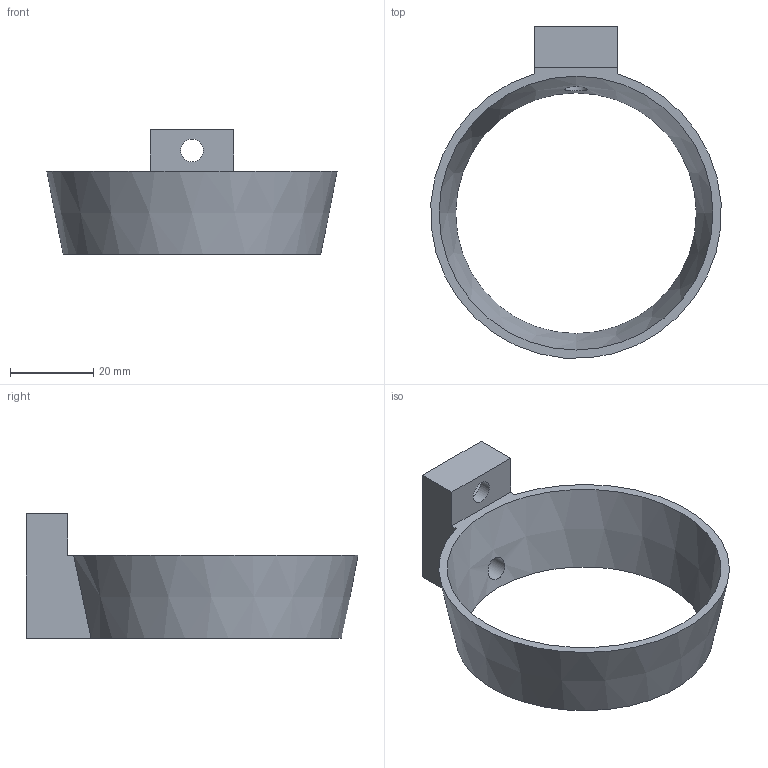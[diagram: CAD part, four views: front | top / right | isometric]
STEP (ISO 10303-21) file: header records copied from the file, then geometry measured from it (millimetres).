
FILE_DESCRIPTION(/* description */ (''),/* implementation_level */ '2;1');
FILE_NAME(/* name */ 'cup_hold_ring v7.step',/* time_stamp */ '2026-04-10T14:28:28+02:00',/* author */ (''),/* organization */ (''),/* preprocessor_version */ 'ST-DEVELOPER v20.1',/* originating_system */ 'Autodesk Translation Framework v14.24.0.0',/* authorisation */ '');
FILE_SCHEMA (('AUTOMOTIVE_DESIGN { 1 0 10303 214 3 1 1 }'));
Length unit declared in the file: millimetre
Products named in the file (1): (Niezapisany)
Bounding box: 69.82 x 79.87 x 30 mm (x, y, z)
Volume: 13814.7 mm3; surface area: 11456.8 mm2
Topology: 1 solids, 1 shells, 23 faces, 58 edges, 39 vertices
Faces by surface type: plane 17, cylinder 4, cone 2
Full cylindrical faces by diameter (mm): 5.5 x4
Entity records: 772 total; most frequent: CARTESIAN_POINT 159, ORIENTED_EDGE 116, DIRECTION 113, EDGE_CURVE 58, LINE 43, VECTOR 43, VERTEX_POINT 39, EDGE_LOOP 35
